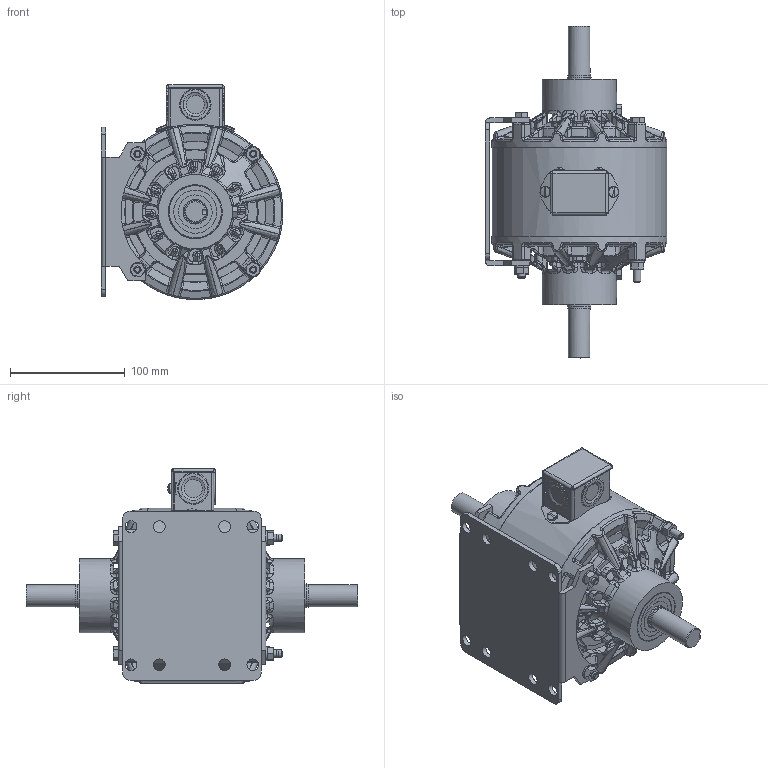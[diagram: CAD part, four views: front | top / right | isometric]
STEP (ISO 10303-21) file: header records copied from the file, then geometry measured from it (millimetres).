
FILE_DESCRIPTION(/* description */ ('STEP AP214'),/* implementation_level */ '2;1');
FILE_NAME(/* name */ '10MC90B20_stp.step',/* time_stamp */ '2026-05-12T15:09:38-05:00',/* author */ (''),/* organization */ (''),/* preprocessor_version */ 'ST-DEVELOPER v20.1',/* originating_system */ 'Autodesk Translation Framework v15.8.0.0',/* authorisation */ '');
FILE_SCHEMA (('AUTOMOTIVE_DESIGN { 1 0 10303 214 3 1 1 }'));
Products named in the file (1): 10MC90B20_stp_asm
Bounding box: 158.72 x 289.77 x 187.41 mm (x, y, z)
Volume: 1585462.5 mm3; surface area: 414962 mm2
Topology: 4 solids, 10 shells, 2565 faces, 6354 edges, 3698 vertices
Faces by surface type: bspline 842, cylinder 600, plane 575, torus 291, cone 171, sphere 86
Full cylindrical faces by diameter (mm): 3.306 x2, 3.454 x2, 3.795 x2, 4.039 x2, 4.166 x2, 6.35 x12, 6.747 x6, 9.474 x2, 10.319 x8, 13.208 x2, 13.487 x2, 13.494 x1, 19.05 x4, 19.101 x4, 19.939 x1, 20.008 x10, 22.225 x3, 23.79 x1, 23.8 x2, 29.375 x8, 31.75 x1, 37.625 x8, 38.1 x1, 44.45 x1, 46.998 x4, 47.65 x1, 65.075 x2, 74.701 x1, 77.013 x2, 92.126 x2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
Entity records: 132782 total; most frequent: CARTESIAN_POINT 77917, ORIENTED_EDGE 12500, DIRECTION 10383, EDGE_CURVE 6250, AXIS2_PLACEMENT_3D 4354, VERTEX_POINT 3706, EDGE_LOOP 2730, FACE_OUTER_BOUND 2565
